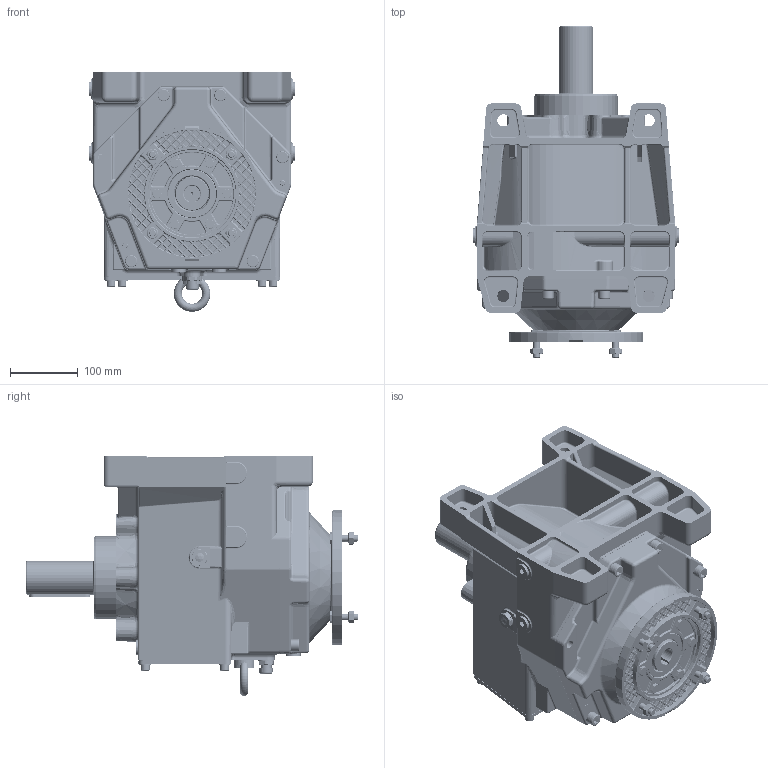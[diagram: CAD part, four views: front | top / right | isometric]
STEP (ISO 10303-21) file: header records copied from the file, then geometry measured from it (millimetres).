
FILE_DESCRIPTION((''),'2;1');
FILE_NAME('O:\Figurini\Figurini NHL\3D\50_2\MNHL 50_2\MNHL 50_2 PAM90 B5.stp','2013-09-04T09:18:08',('d.iannaccio'),(''),'Autodesk Inventor 2012','Autodesk Inventor 2012','');
FILE_SCHEMA(('AUTOMOTIVE_DESIGN { 1 0 10303 214 1 1 1 1 }'));
Length unit declared in the file: millimetre
Products named in the file (1): MNHL_50_2 PAM90 B5
Bounding box: 306 x 491.5 x 355 mm (x, y, z)
Volume: 7012672.1 mm3; surface area: 1415124.3 mm2
Topology: 40 solids, 42 shells, 6492 faces, 15112 edges, 8703 vertices
Faces by surface type: cylinder 2442, plane 1578, torus 1052, bspline 814, sphere 379, cone 227
Full cylindrical faces by diameter (mm): 6.647 x12, 8 x30, 8.376 x1, 8.4 x6, 8.5 x2, 9 x12, 10 x12, 10.106 x10, 10.5 x1, 11.5 x4, 12 x6, 13 x12, 14.63 x4, 14.95 x7, 16 x1, 17 x6, 18 x9, 18.98 x1, 19 x2, 19.5 x1, 20 x2, 21 x1, 23.7 x1, 30 x4, 32 x1, 37.5 x1, 39.365 x1, 39.965 x2, 47 x1, 49.4 x1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
Entity records: 215086 total; most frequent: CARTESIAN_POINT 66066, DIRECTION 30793, ORIENTED_EDGE 28820, EDGE_CURVE 14410, AXIS2_PLACEMENT_3D 12635, VERTEX_POINT 8549, EDGE_LOOP 7116, CIRCLE 6543
